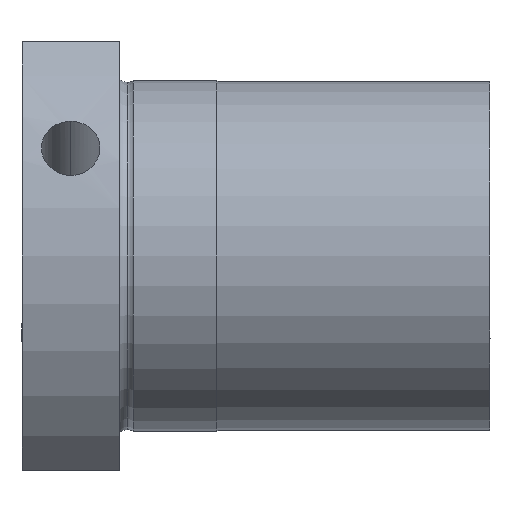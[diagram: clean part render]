
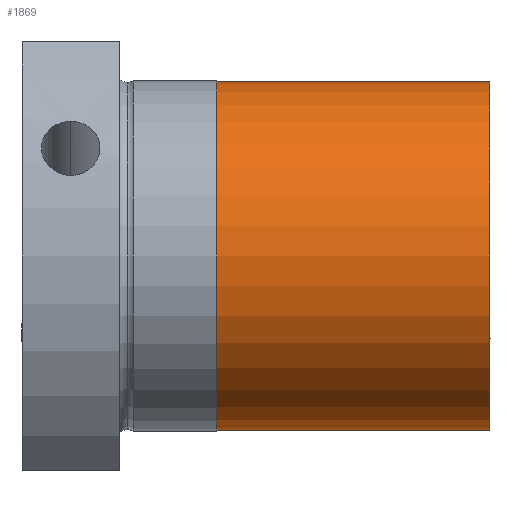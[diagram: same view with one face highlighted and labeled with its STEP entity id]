
A CAD part, front view. The second image highlights one B-rep face of the part: STEP entity #1869.
In plain terms, the highlighted cylindrical face has radius 17.9 mm (diameter 35.8 mm), a partial arc.
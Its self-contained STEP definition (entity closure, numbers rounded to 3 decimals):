
#40 = LINE ( 'NONE', #1344, #2428 ) ;
#99 = FACE_OUTER_BOUND ( 'NONE', #2478, .T. ) ;
#227 = CARTESIAN_POINT ( 'NONE',  ( 8.581, 0., 17.9 ) ) ;
#266 = CIRCLE ( 'NONE', #2597, 17.9 ) ;
#335 = ORIENTED_EDGE ( 'NONE', *, *, #1229, .F. ) ;
#430 = EDGE_CURVE ( 'NONE', #1546, #1362, #2302, .T. ) ;
#500 = DIRECTION ( 'NONE',  ( -1., 0., 0. ) ) ;
#515 = VECTOR ( 'NONE', #2242, 1000. ) ;
#647 = DIRECTION ( 'NONE',  ( -1., 0., 0. ) ) ;
#692 = ORIENTED_EDGE ( 'NONE', *, *, #430, .T. ) ;
#907 = AXIS2_PLACEMENT_3D ( 'NONE', #1594, #1806, #2276 ) ;
#937 = ORIENTED_EDGE ( 'NONE', *, *, #2237, .T. ) ;
#1174 = CARTESIAN_POINT ( 'NONE',  ( 8.581, 0., -17.9 ) ) ;
#1229 = EDGE_CURVE ( 'NONE', #2537, #2574, #40, .T. ) ;
#1240 = EDGE_CURVE ( 'NONE', #2574, #1362, #1890, .T. ) ;
#1324 = ORIENTED_EDGE ( 'NONE', *, *, #1240, .F. ) ;
#1344 = CARTESIAN_POINT ( 'NONE',  ( -100.792, 0., -17.9 ) ) ;
#1353 = DIRECTION ( 'NONE',  ( -1., 0., 0. ) ) ;
#1362 = VERTEX_POINT ( 'NONE', #227 ) ;
#1546 = VERTEX_POINT ( 'NONE', #2842 ) ;
#1594 = CARTESIAN_POINT ( 'NONE',  ( -100.792, 0., 0. ) ) ;
#1806 = DIRECTION ( 'NONE',  ( -1., 0., 0. ) ) ;
#1869 = ADVANCED_FACE ( 'NONE', ( #99 ), #2936, .T. ) ;
#1890 = CIRCLE ( 'NONE', #2319, 17.9 ) ;
#1896 = CARTESIAN_POINT ( 'NONE',  ( 36.581, 0., 0. ) ) ;
#2078 = CARTESIAN_POINT ( 'NONE',  ( -100.792, 0., 17.9 ) ) ;
#2132 = DIRECTION ( 'NONE',  ( 0., 0., 1. ) ) ;
#2216 = CARTESIAN_POINT ( 'NONE',  ( 36.581, 0., -17.9 ) ) ;
#2237 = EDGE_CURVE ( 'NONE', #2537, #1546, #266, .T. ) ;
#2242 = DIRECTION ( 'NONE',  ( -1., 0., 0. ) ) ;
#2276 = DIRECTION ( 'NONE',  ( 0., 0., 1. ) ) ;
#2302 = LINE ( 'NONE', #2078, #515 ) ;
#2319 = AXIS2_PLACEMENT_3D ( 'NONE', #2727, #1353, #2950 ) ;
#2428 = VECTOR ( 'NONE', #647, 1000. ) ;
#2478 = EDGE_LOOP ( 'NONE', ( #335, #937, #692, #1324 ) ) ;
#2537 = VERTEX_POINT ( 'NONE', #2216 ) ;
#2574 = VERTEX_POINT ( 'NONE', #1174 ) ;
#2597 = AXIS2_PLACEMENT_3D ( 'NONE', #1896, #500, #2132 ) ;
#2727 = CARTESIAN_POINT ( 'NONE',  ( 8.581, 0., 0. ) ) ;
#2842 = CARTESIAN_POINT ( 'NONE',  ( 36.581, 0., 17.9 ) ) ;
#2936 = CYLINDRICAL_SURFACE ( 'NONE', #907, 17.9 ) ;
#2950 = DIRECTION ( 'NONE',  ( 0., 0., 1. ) ) ;
